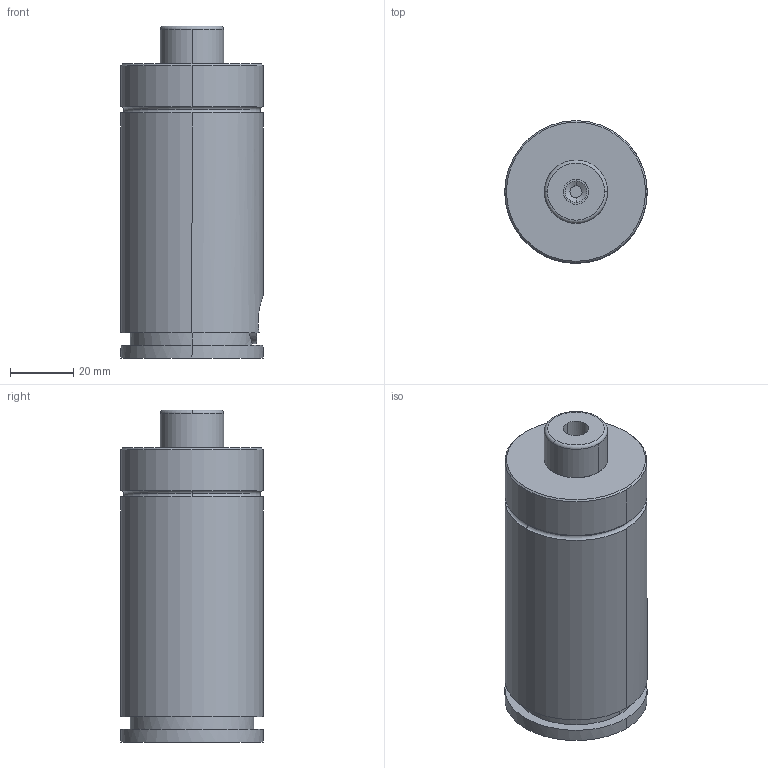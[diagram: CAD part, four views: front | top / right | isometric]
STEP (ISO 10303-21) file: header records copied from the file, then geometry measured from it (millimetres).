
FILE_DESCRIPTION(('CATIA V5 STEP Exchange'),'2;1');
FILE_NAME('W:\CATALOGO GENERAL 2018\FICHEROS CAD\004-TPS\TPS 500.2\TPS 500x10.2.stp','2017-10-31T14:25:21+00:00',('none'),('none'),'CATIA Version 5 Release 17 (IN-10)','CATIA V5 STEP AP203','none');
FILE_SCHEMA(('CONFIG_CONTROL_DESIGN'));
Length unit declared in the file: millimetre
Products named in the file (1): TPS 500x10.2
Bounding box: 45 x 45 x 105 mm (x, y, z)
Volume: 144161.9 mm3; surface area: 21302.2 mm2
Topology: 3 solids, 3 shells, 63 faces, 149 edges, 99 vertices
Faces by surface type: cylinder 29, plane 22, torus 6, cone 6
Entity records: 2281 total; most frequent: CARTESIAN_POINT 846, ORIENTED_EDGE 298, DIRECTION 240, EDGE_CURVE 149, AXIS2_PLACEMENT_3D 122, VERTEX_POINT 99, EDGE_LOOP 72, ADVANCED_FACE 63
